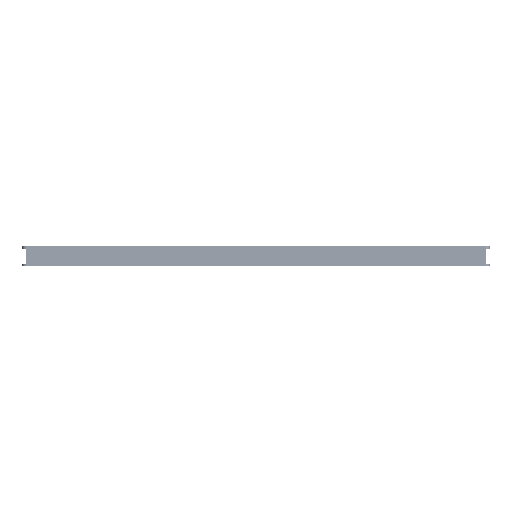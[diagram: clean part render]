
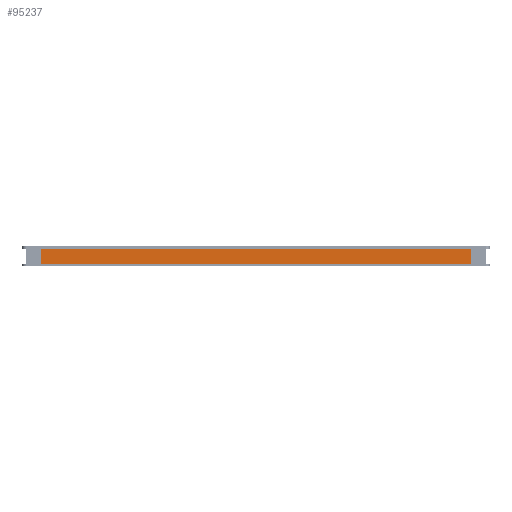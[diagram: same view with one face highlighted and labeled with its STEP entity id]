
A CAD part, left-side view. The second image highlights one B-rep face of the part: STEP entity #95237.
In plain terms, the highlighted planar face has unit normal (-1, 0, 0).
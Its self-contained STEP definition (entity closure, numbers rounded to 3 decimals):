
#17316 = FACE_OUTER_BOUND ( 'NONE', #39319, .T. ) ;
#21656 = VERTEX_POINT ( 'NONE', #63167 ) ;
#34719 = VECTOR ( 'NONE', #155561, 1000. ) ;
#39261 = DIRECTION ( 'NONE',  ( 0., -1., 0. ) ) ;
#39319 = EDGE_LOOP ( 'NONE', ( #100960, #108726, #90854, #95928 ) ) ;
#43791 = DIRECTION ( 'NONE',  ( 0., 0., -1. ) ) ;
#52515 = LINE ( 'NONE', #112486, #94899 ) ;
#56795 = LINE ( 'NONE', #58371, #34719 ) ;
#58371 = CARTESIAN_POINT ( 'NONE',  ( -725.983, -548.14, -92.045 ) ) ;
#60713 = VECTOR ( 'NONE', #43791, 1000. ) ;
#63167 = CARTESIAN_POINT ( 'NONE',  ( -725.983, -548.14, -92.045 ) ) ;
#65926 = DIRECTION ( 'NONE',  ( 1., 0., 0. ) ) ;
#69689 = CARTESIAN_POINT ( 'NONE',  ( -725.983, 617.86, -92.045 ) ) ;
#72040 = CARTESIAN_POINT ( 'NONE',  ( -725.983, 617.86, -131.045 ) ) ;
#78072 = PLANE ( 'NONE',  #92094 ) ;
#80605 = VERTEX_POINT ( 'NONE', #69689 ) ;
#81814 = LINE ( 'NONE', #154690, #60713 ) ;
#87242 = EDGE_CURVE ( 'NONE', #80605, #145683, #81814, .T. ) ;
#88723 = VERTEX_POINT ( 'NONE', #133056 ) ;
#90854 = ORIENTED_EDGE ( 'NONE', *, *, #100176, .T. ) ;
#92094 = AXIS2_PLACEMENT_3D ( 'NONE', #127456, #65926, #39261 ) ;
#94899 = VECTOR ( 'NONE', #123825, 1000. ) ;
#95237 = ADVANCED_FACE ( 'NONE', ( #17316 ), #78072, .F. ) ;
#95928 = ORIENTED_EDGE ( 'NONE', *, *, #113076, .T. ) ;
#100176 = EDGE_CURVE ( 'NONE', #88723, #21656, #123407, .T. ) ;
#100960 = ORIENTED_EDGE ( 'NONE', *, *, #87242, .T. ) ;
#108726 = ORIENTED_EDGE ( 'NONE', *, *, #159450, .T. ) ;
#111519 = VECTOR ( 'NONE', #133947, 1000. ) ;
#112486 = CARTESIAN_POINT ( 'NONE',  ( -725.983, -548.14, -131.045 ) ) ;
#113076 = EDGE_CURVE ( 'NONE', #21656, #80605, #56795, .T. ) ;
#123407 = LINE ( 'NONE', #159037, #111519 ) ;
#123825 = DIRECTION ( 'NONE',  ( 0., -1., 0. ) ) ;
#127456 = CARTESIAN_POINT ( 'NONE',  ( -725.983, 34.86, -111.545 ) ) ;
#133056 = CARTESIAN_POINT ( 'NONE',  ( -725.983, -548.14, -131.045 ) ) ;
#133947 = DIRECTION ( 'NONE',  ( 0., 0., 1. ) ) ;
#145683 = VERTEX_POINT ( 'NONE', #72040 ) ;
#154690 = CARTESIAN_POINT ( 'NONE',  ( -725.983, 617.86, -92.045 ) ) ;
#155561 = DIRECTION ( 'NONE',  ( 0., 1., 0. ) ) ;
#159037 = CARTESIAN_POINT ( 'NONE',  ( -725.983, -548.14, -92.045 ) ) ;
#159450 = EDGE_CURVE ( 'NONE', #145683, #88723, #52515, .T. ) ;
